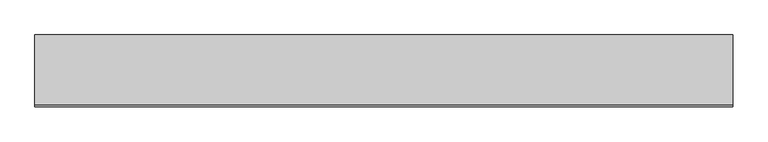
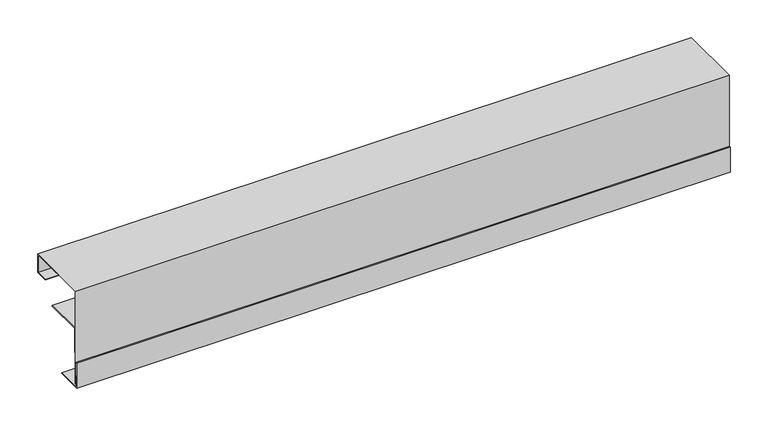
"""IFC4 building model written with IfcOpenShell, lengths in millimetres: proxy geometry, Alubel Alu-Skin Upper Frame Type1 : Alubel Alu-Skin Upper Frame Type1."""

from ifc_helpers import new_model, si_unit, frame, origin, place, context, project, spatial, polyline, outline, extrude, source, transform, mapped, element, save


def generic_models_2cf9fb38(model_context):
    return source(origin(), model_context, "Body", "SweptSolid", [
        extrude(outline(polyline([(4.0, 95.0), (64.0, 95.0), (64.0, 94.0), (5.0, 94.0), (5.0, 55.0), (4.0, 55.0), (4.0, 95.0)])), frame((-500.0, 0.0, 0.0), z_axis=(1.0, 0.0, 0.0), x_axis=(0.0, 1.0, 0.0)), (0.0, 0.0, 1.0), 1000.0),
        extrude(outline(polyline([(3.0, 5.0), (3.0, 155.0), (103.0, 155.0), (103.0, 125.0), (83.0, 125.0), (83.0, 126.0), (102.0, 126.0), (102.0, 154.0), (4.0, 154.0), (4.0, 5.0), (3.0, 5.0)])), frame((-500.0, 0.0, 0.0), z_axis=(1.0, 0.0, 0.0), x_axis=(0.0, 1.0, 0.0)), (0.0, 0.0, 1.0), 1000.0),
        extrude(outline(polyline([(0.0, 40.0), (3.0, 40.0), (3.0, 20.0), (2.0, 20.0), (2.0, 39.0), (1.0, 39.0), (1.0, 1.0), (40.0, 1.0), (40.0, 0.0), (0.0, 0.0), (0.0, 40.0)])), frame((-500.0, 0.0, 0.0), z_axis=(1.0, 0.0, 0.0), x_axis=(0.0, 1.0, 0.0)), (0.0, 0.0, 1.0), 1000.0),
    ])


if __name__ == "__main__":
    model = new_model("IFC4")
    model_context = context("Model", 3, world=origin())
    ifc_project = project(units=[si_unit("LENGTHUNIT", "METRE", prefix="MILLI")], contexts=[model_context])
    site = spatial("IfcSite", under=ifc_project)
    building = spatial("IfcBuilding", under=site)
    placement = place(None, origin())
    generic_models_shape = generic_models_2cf9fb38(model_context)
    element("IfcBuildingElementProxy", 1, Name="Alubel Alu-Skin Upper Frame Type1 : Alubel Alu-Skin Upper Frame Type1", ObjectType="Alubel Alu-Skin Upper Frame Type1 : Alubel Alu-Skin Upper Frame Type1", at=placement, inside=building, context=model_context, shape_type="MappedRepresentation", body=[
        mapped(generic_models_shape, transform((0.0, 0.0, 0.0), x_axis=(1.0, 0.0, 0.0), y_axis=(0.0, 1.0, 0.0), z_axis=(0.0, 0.0, 1.0))),
    ])
    save(model, "model.ifc")
